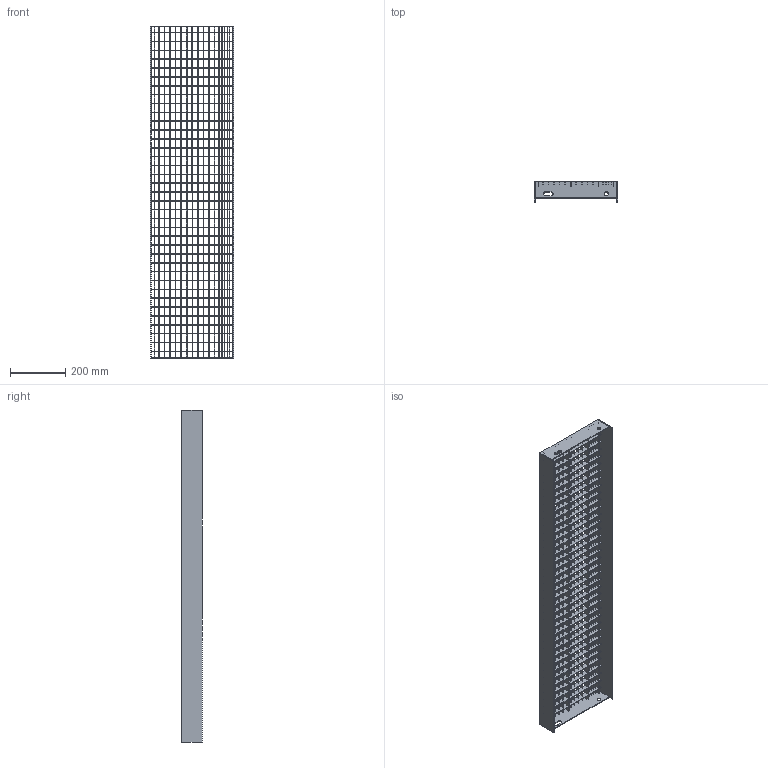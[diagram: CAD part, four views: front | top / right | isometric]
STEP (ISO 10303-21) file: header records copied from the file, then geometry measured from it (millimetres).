
FILE_DESCRIPTION (( 'STEP AP203' ), '1' );
FILE_NAME ('23007302S_ Gitterristetrin_300x1200mm.STEP', '2014-12-15T12:49:09', ( '' ), ( '' ), 'SwSTEP 2.0', 'SolidWorks 2013', '' );
FILE_SCHEMA (( 'CONFIG_CONTROL_DESIGN' ));
Length unit declared in the file: millimetre
Products named in the file (9): Fylderibbe_10x2x1194mm; Fylderibbe_m_savtak_10x2x1194mm; Styreribbe_20x2x1194mm; Styreribbe_m_savtak_20x2x1194mm; 23007302S_ Gitterristetrin_300x1200mm; Endestykke_60x3x294mm; Kantstaal_75x3x1200mm; Kantstaal_m_savtak_75x3x1200mm (2); Baereribbe_20x2x294
Assembly tree (58 placements, depth 2):
  23007302S_ Gitterristetrin_300x1200mm
    Endestykke_60x3x294mm  x2
    Kantstaal_75x3x1200mm
    Kantstaal_m_savtak_75x3x1200mm (2)
    Baereribbe_20x2x294  x37
    Fylderibbe_10x2x1194mm  x9
    Fylderibbe_m_savtak_10x2x1194mm  x4
    Styreribbe_20x2x1194mm  x3
    Styreribbe_m_savtak_20x2x1194mm
Bounding box: 300 x 75 x 1200 mm (x, y, z)
Volume: 1531850.8 mm3; surface area: 1502254.5 mm2
Topology: 58 solids, 58 shells, 7522 faces, 22218 edges, 14812 vertices
Faces by surface type: plane 6502, cylinder 1020
Full cylindrical faces by diameter (mm): 14 x2
Entity records: 83903 total; most frequent: CARTESIAN_POINT 14650, ORIENTED_EDGE 14572, DIRECTION 13318, EDGE_CURVE 7286, LINE 6266, VECTOR 6266, VERTEX_POINT 4858, AXIS2_PLACEMENT_3D 3526
